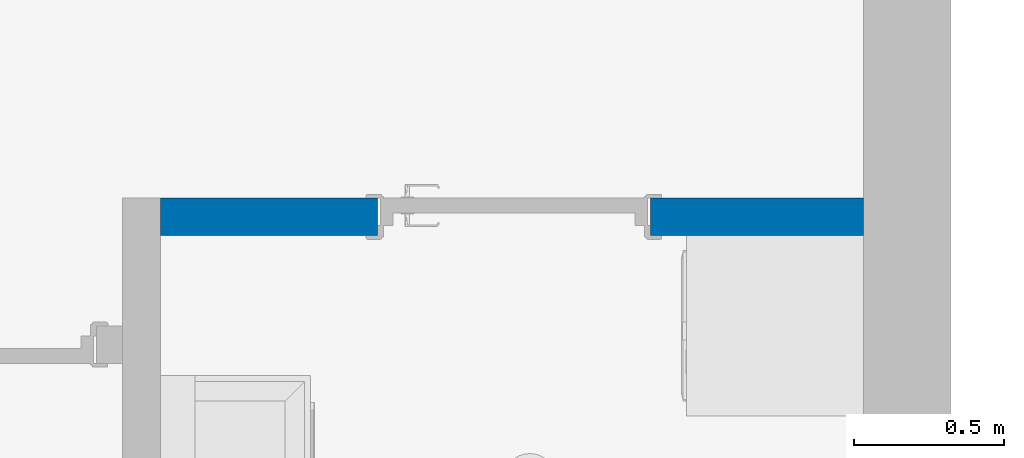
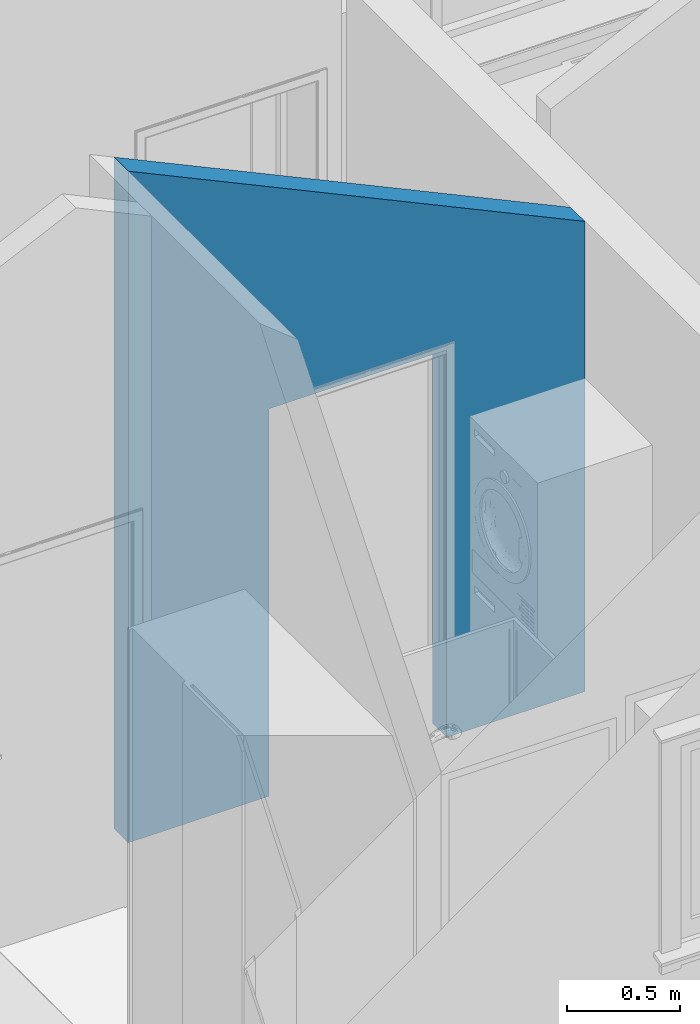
# One storey, part 22 of 44: 1 wall, 2 openings.
"""IFC2X3 building model written with IfcOpenShell, lengths in millimetres."""

from ifc_helpers import new_model, entity, si_unit, converted_unit, direction, frame, frame_2d, origin, origin_2d_with_axis, place, context, subcontext, project, spatial, polyline, rectangle, extrude, clip, bounded_halfspace, material, layer, layer_set, layer_usage, type_object, element, save


model = new_model("IFC2X3")

# Units and contexts
model_context = context("Model", 3, precision=0.01, world=origin(), true_north=direction((0.0, 1.0)))
body_context = subcontext(model_context, "Body", "Model", "MODEL_VIEW")
ifc_project = project(units=[si_unit("LENGTHUNIT", "METRE", prefix="MILLI"), si_unit("AREAUNIT", "SQUARE_METRE"), si_unit("VOLUMEUNIT", "CUBIC_METRE"), converted_unit("PLANEANGLEUNIT", "DEGREE", entity("IfcPlaneAngleMeasure", 0.017453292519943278), si_unit("PLANEANGLEUNIT", "RADIAN"), dimensions=[0, 0, 0, 0, 0, 0, 0])], contexts=[model_context])

# Site, building, storey
site_placement = place(None, origin())
site = spatial("IfcSite", under=ifc_project, at=site_placement, Name="Default", CompositionType="ELEMENT")
building_placement = place(site_placement, origin())
building = spatial("IfcBuilding", under=site, at=building_placement, CompositionType="ELEMENT")
storey_placement = place(building_placement, frame((0.0, 0.0, 2681.0)))
storey = spatial("IfcBuildingStorey", under=building, at=storey_placement, Name="Et. 2", CompositionType="ELEMENT", Elevation=2681.0)

# Wall, openings
ifc_material_1 = material(Name="Vegg - Gips - Innvendig - Hvit")
ifc_layer_1 = layer(ifc_material_1, 13.000000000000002)
ifc_material_2 = material(Name="Vegg - Stender - Stål - Isolert")
ifc_layer_2 = layer(ifc_material_2, 100.0)
ifc_layer_3 = layer(ifc_material_1, 13.000000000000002)
ifc_layer_set = layer_set([ifc_layer_1, ifc_layer_2, ifc_layer_3], Name="Basic Wall:24-GSIG-13_100_13")
ifc_layer_usage = layer_usage(ifc_layer_set, "AXIS2", "NEGATIVE", 63.00000000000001)
wall_type = type_object("IfcWallType", Name="Basic Wall:24-GSIG-13_100_13", PredefinedType="STANDARD", material=ifc_layer_set)
wall_placement = place(storey_placement, frame((25691.009586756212, 12595.05871915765, 0.0)))
wall = element("IfcWallStandardCase", 1, at=wall_placement, inside=storey, type_object=wall_type, material=ifc_layer_usage, Name="Basic Wall:24-GSIG-13_100_13", context=body_context, shape_type="Clipping", body=[
    clip(extrude(rectangle(XDim=2341.000000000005, YDim=125.99999999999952, at=frame_2d((1170.5000000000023, 1.4530598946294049e-12), x_axis=(1.0, 0.0))), origin(), (0.0, 0.0, 1.0), 3640.378370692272), bounded_halfspace(frame((0.0, -63.0, 3640.378370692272), z_axis=(0.42261826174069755, 0.0, 0.9063077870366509), x_axis=(0.0, 1.0, 0.0)), False, frame((0.0, -63.0, 3640.378370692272)), polyline([(0.0, 0.0), (2341.0, 0.0), (2341.0, 126.0), (0.0, 126.0), (0.0, 0.0)]))),
])
opening_1_placement = place(wall_placement, frame((722.0, -63.0, 0.0)))
element("IfcOpeningElement", 2, at=opening_1_placement, cuts=wall, Name="ID Hel:9x21M:1", ObjectType="Opening", context=body_context, shape_type="SweptSolid", body=[
    extrude(rectangle(XDim=910.0000000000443, YDim=2100.0000000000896, at=frame_2d((1050.0000000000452, 455.00000000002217), x_axis=(0.0, 1.0))), frame((0.0, 0.0, 0.0), z_axis=(0.0, 1.0, 0.0), x_axis=(0.0, 0.0, 1.0)), (0.0, 0.0, 1.0), 126.00000000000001),
])
opening_2_placement = place(wall_placement, frame((-25691.009586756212, -12595.05871915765, 0.0)))
element("IfcOpeningElement", 3, at=opening_2_placement, cuts=wall, Name="Basic Wall:24-GSIG-13_100_13", ObjectType="Opening", context=body_context, shape_type="SweptSolid", body=[
    extrude(rectangle(XDim=2100.00000000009, YDim=910.0000000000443, at=origin_2d_with_axis()), frame((26868.00958675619, 11008.058719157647, 1050.0), z_axis=(0.0, 1.0, 0.0), x_axis=(0.0, 0.0, 1.0)), (0.0, 0.0, 1.0), 3048.0),
])

save(model, "model.ifc")
